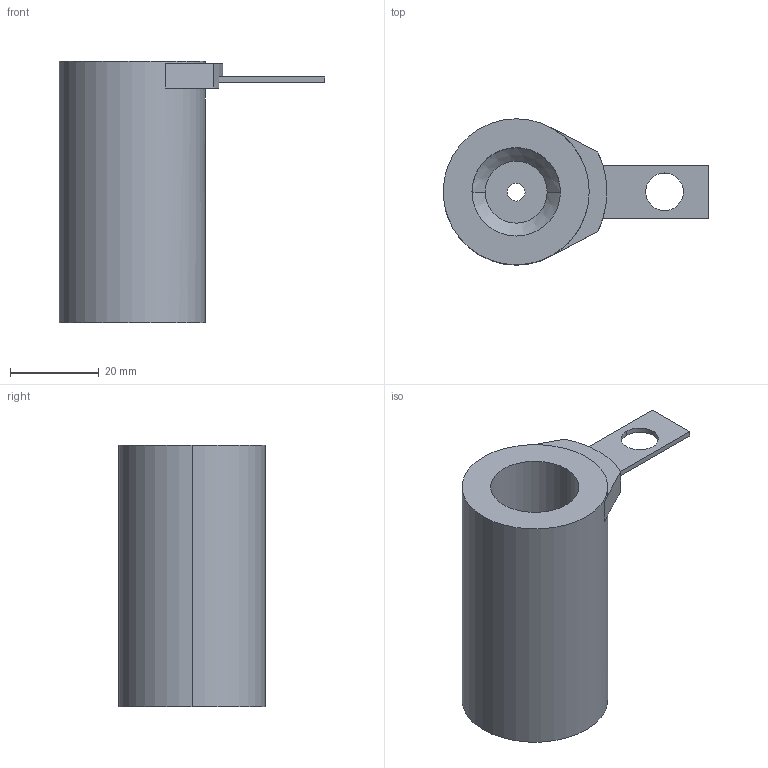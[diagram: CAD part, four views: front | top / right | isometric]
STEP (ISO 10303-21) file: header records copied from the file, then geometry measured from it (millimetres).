
FILE_DESCRIPTION(/* description */ (''),/* implementation_level */ '2;1');
FILE_NAME(/* name */ '3d_tus20-59_06249_r00.stp',/* time_stamp */ '2011-01-10T14:08:54+09:00',/* author */ ('MISUMI'),/* organization */ (''),/* preprocessor_version */ 'ST-DEVELOPER v11',/* originating_system */ 'UGS - NX 5.0',/* authorisation */ '');
FILE_SCHEMA (('CONFIG_CONTROL_DESIGN'));
Length unit declared in the file: millimetre
Products named in the file (1): 3d_tus20-59_06249_r00
Bounding box: 60.03 x 33 x 59 mm (x, y, z)
Volume: 35021.2 mm3; surface area: 11958.6 mm2
Topology: 2 solids, 2 shells, 28 faces, 67 edges, 44 vertices
Faces by surface type: plane 17, cylinder 9, cone 2
Entity records: 915 total; most frequent: DIRECTION 153, CARTESIAN_POINT 140, ORIENTED_EDGE 134, EDGE_CURVE 67, AXIS2_PLACEMENT_3D 57, VERTEX_POINT 44, LINE 39, VECTOR 39
